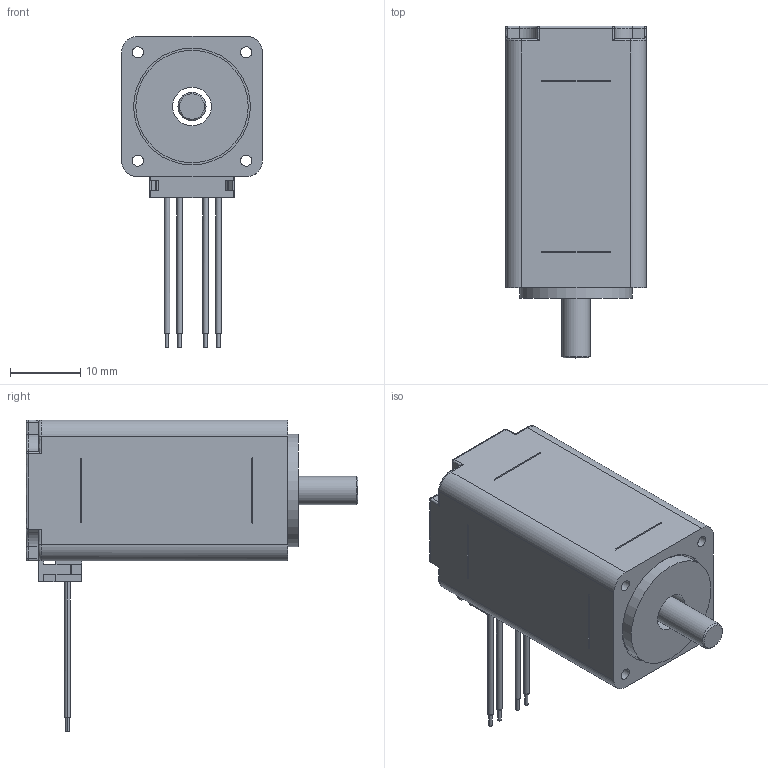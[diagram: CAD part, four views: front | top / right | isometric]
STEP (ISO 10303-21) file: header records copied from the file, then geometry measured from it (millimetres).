
FILE_DESCRIPTION( ('This file contains a STEP AP42 implementation' ,'as created by ZW3D STEP Interface translator.' ,'') ,'2;1' );
FILE_NAME( '20H38H-0604A-XXX.stp' ,'26 119.172636', (''), ('ZWCAD Software Co.'), 'Version 1.0', 'ZW3D to STEP translator', '' );
FILE_SCHEMA(('AUTOMOTIVE_DESIGN { 1 0 10303 214 1 1 1 1 }'));
Length unit declared in the file: millimetre
Products named in the file (1): 0
Bounding box: 20 x 47.2 x 44.32 mm (x, y, z)
Volume: 8300.5 mm3; surface area: 11822 mm2
Topology: 2 solids, 2 shells, 961 faces, 3045 edges, 1981 vertices
Faces by surface type: plane 618, cylinder 297, bspline 44, cone 2
Full cylindrical faces by diameter (mm): 0.67 x8, 1.6 x4, 2.2 x4, 4 x1, 5.5 x2, 7 x1, 9 x3, 12.24 x1, 12.5 x1, 16 x1, 16.6 x1
Entity records: 36610 total; most frequent: CARTESIAN_POINT 8448, ORIENTED_EDGE 6076, DIRECTION 5374, EDGE_CURVE 3038, VECTOR 2090, LINE 2090, VERTEX_POINT 1981, AXIS2_PLACEMENT_3D 1642
